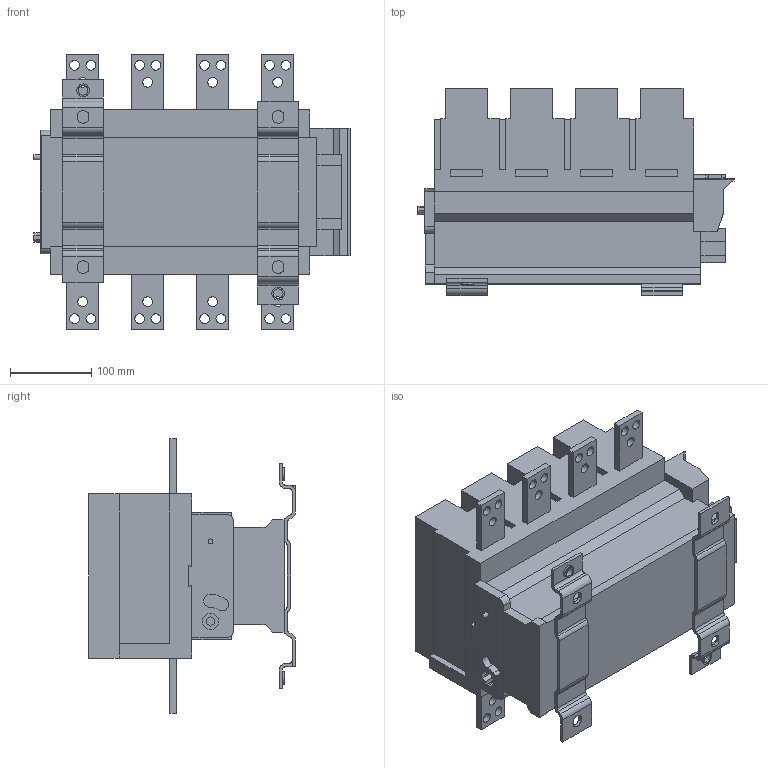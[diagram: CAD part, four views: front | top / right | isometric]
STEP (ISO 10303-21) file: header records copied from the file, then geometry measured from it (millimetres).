
FILE_DESCRIPTION((''),'2;1');
FILE_NAME('CJX2-F12504','2024-05-31T16:47:27',('Administrator'),(''),'CREO PARAMETRIC BY PTC INC, 2020053','CREO PARAMETRIC BY PTC INC, 2020053','');
FILE_SCHEMA(('CONFIG_CONTROL_DESIGN'));
Length unit declared in the file: millimetre
Products named in the file (1): CJX2-F12504
Bounding box: 389 x 254.5 x 338 mm (x, y, z)
Volume: 12065939.3 mm3; surface area: 631700.3 mm2
Topology: 1 solids, 1 shells, 477 faces, 1336 edges, 882 vertices
Faces by surface type: plane 354, cylinder 123
Entity records: 15423 total; most frequent: CARTESIAN_POINT 2706, ORIENTED_EDGE 2672, DIRECTION 2556, EDGE_CURVE 1336, VECTOR 1066, LINE 1066, VERTEX_POINT 882, AXIS2_PLACEMENT_3D 745
